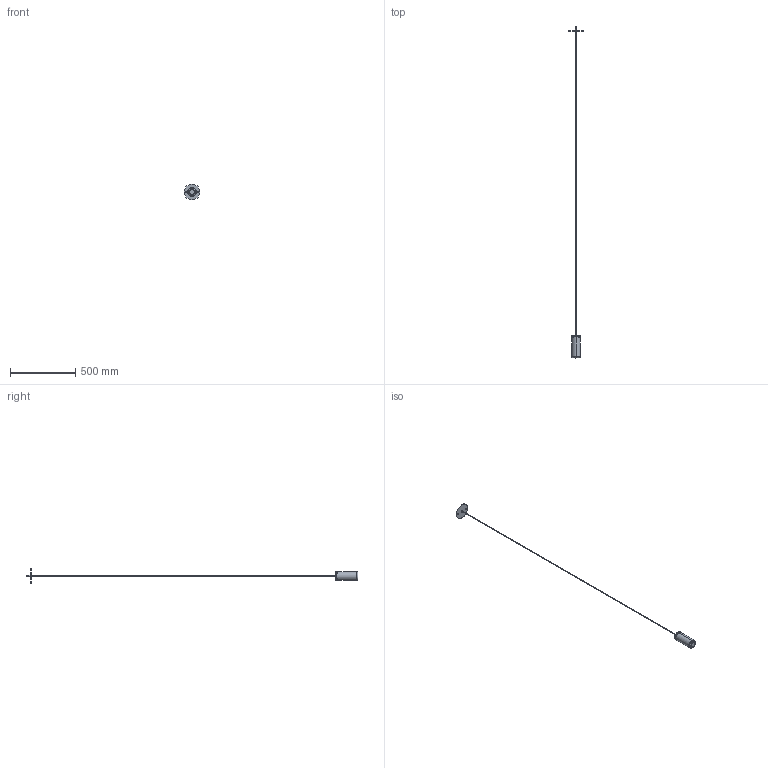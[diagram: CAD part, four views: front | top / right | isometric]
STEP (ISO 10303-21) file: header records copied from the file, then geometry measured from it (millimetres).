
FILE_DESCRIPTION (( 'STEP AP203' ), '1' );
FILE_NAME ('USURBMIMXXXXLCC-Rev 01-PER 3D.STEP', '2026-07-07T16:26:24', ( '' ), ( '' ), 'SwSTEP 2.0', 'SolidWorks 2026', '' );
FILE_SCHEMA (( 'CONFIG_CONTROL_DESIGN' ));
Length unit declared in the file: millimetre
Products named in the file (12): URBAN MINI-PL1-02-V1; URBAN MINI-PL1-08-V1; TAPPO COPRIVITE ADESIVO BIANCO RAL 9016 RAGGRIZZATO OPACO; WSASS-000000038-00; USURBMIMXXXXLCC-PENDENTE USA-Rev 01; URBAN MINI-PL1-06-V3; WSCM2C0051-0100-01; CAVO ELETTRICO+RIV TESSUTO; URBAN MINI-PL1-04-V2; WSCM2A0032-0700-00; USURBMIMXXXXLCC-Rev 01-PER 3D; URBAN MINI-SP1-01-V3
Assembly tree (12 placements, depth 3):
  USURBMIMXXXXLCC-Rev 01-PER 3D
    USURBMIMXXXXLCC-PENDENTE USA-Rev 01
      URBAN MINI-SP1-01-V3
      URBAN MINI-PL1-04-V2
      URBAN MINI-PL1-06-V3
      URBAN MINI-PL1-02-V1
      URBAN MINI-PL1-08-V1
      CAVO ELETTRICO+RIV TESSUTO
    WSASS-000000038-00
      WSCM2C0051-0100-01
      WSCM2A0032-0700-00
      TAPPO COPRIVITE ADESIVO BIANCO RAL 9016 RAGGRIZZATO OPACO  x2
Bounding box: 120 x 2537 x 120 mm (x, y, z)
Volume: 248131 mm3; surface area: 164438.4 mm2
Topology: 10 solids, 10 shells, 216 faces, 458 edges, 268 vertices
Faces by surface type: cone 82, cylinder 75, plane 32, torus 27
Entity records: 7124 total; most frequent: DIRECTION 1174, CARTESIAN_POINT 1016, ORIENTED_EDGE 896, AXIS2_PLACEMENT_3D 510, EDGE_CURVE 448, CIRCLE 281, VERTEX_POINT 264, EDGE_LOOP 246
